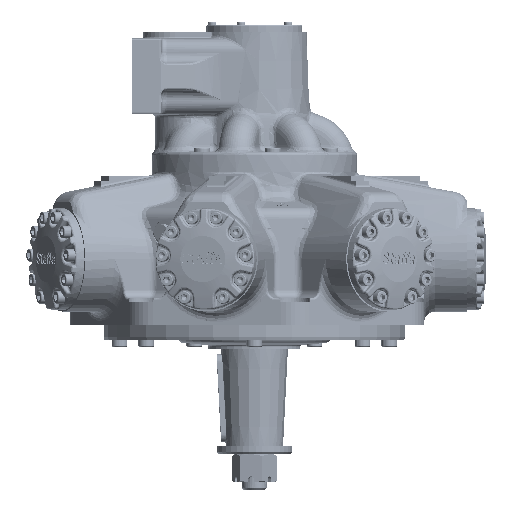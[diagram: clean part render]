
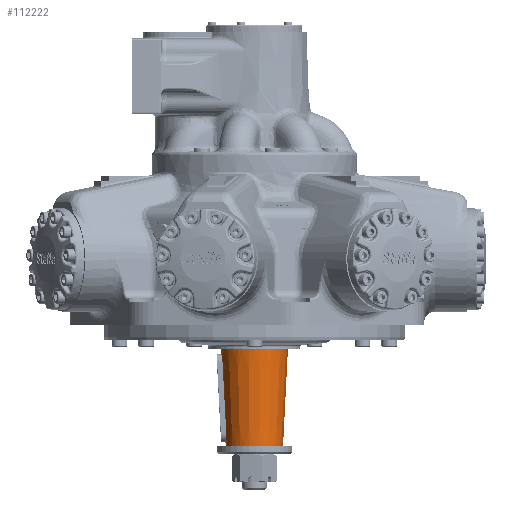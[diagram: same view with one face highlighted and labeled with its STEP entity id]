
A CAD part, left-side view. The second image highlights one B-rep face of the part: STEP entity #112222.
In plain terms, the highlighted conical face has half-angle 2.866 degrees and reference radius 47.125 mm.
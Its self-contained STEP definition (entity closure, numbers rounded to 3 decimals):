
#1358=CONICAL_SURFACE('',#119776,47.125,0.05);
#1745=(
BOUNDED_CURVE()
B_SPLINE_CURVE(2,(#233385,#233386,#233387),.UNSPECIFIED.,.F.,.F.)
B_SPLINE_CURVE_WITH_KNOTS((3,3),(0.042,10.796),
 .UNSPECIFIED.)
CURVE()
GEOMETRIC_REPRESENTATION_ITEM()
RATIONAL_B_SPLINE_CURVE((1.,1.002,1.))
REPRESENTATION_ITEM('')
);
#1746=(
BOUNDED_CURVE()
B_SPLINE_CURVE(2,(#233412,#233413,#233414),.UNSPECIFIED.,.F.,.F.)
B_SPLINE_CURVE_WITH_KNOTS((3,3),(0.045,10.799),
 .UNSPECIFIED.)
CURVE()
GEOMETRIC_REPRESENTATION_ITEM()
RATIONAL_B_SPLINE_CURVE((1.,1.002,1.))
REPRESENTATION_ITEM('')
);
#2413=FACE_BOUND('',#27956,.T.);
#7961=LINE('',#233373,#13619);
#13619=VECTOR('',#136174,47.125);
#20934=FACE_OUTER_BOUND('',#27955,.T.);
#27955=EDGE_LOOP('',(#85041,#85042,#85043,#85044));
#27956=EDGE_LOOP('',(#85045,#85046,#85047,#85048,#85049,#85050));
#33031=CIRCLE('',#119736,43.463);
#33041=CIRCLE('',#119750,50.787);
#38011=B_SPLINE_CURVE_WITH_KNOTS('',3,(#233322,#233323,#233324,#233325,
#233326,#233327,#233328,#233329,#233330,#233331,#233332,#233333,#233334,
#233335,#233336,#233337,#233338,#233339),.UNSPECIFIED.,.F.,.F.,(4,2,2,2,
2,2,2,2,4),(3.878,4.294,4.778,5.262,
5.747,6.231,6.715,7.199,7.615),
 .UNSPECIFIED.);
#38012=B_SPLINE_CURVE_WITH_KNOTS('',3,(#233375,#233376,#233377,#233378),
 .UNSPECIFIED.,.F.,.F.,(4,4),(0.016,0.111),
 .UNSPECIFIED.);
#38013=B_SPLINE_CURVE_WITH_KNOTS('',3,(#233380,#233381,#233382,#233383),
 .UNSPECIFIED.,.F.,.F.,(4,4),(3.771,3.865),
 .UNSPECIFIED.);
#38014=B_SPLINE_CURVE_WITH_KNOTS('',3,(#233389,#233390,#233391,#233392,
#233393,#233394,#233395,#233396,#233397,#233398,#233399,#233400,#233401,
#233402,#233403,#233404,#233405,#233406,#233407,#233408,#233409,#233410,
#233411),.UNSPECIFIED.,.F.,.F.,(4,2,2,2,2,2,2,2,2,3,4),(-3.837,
-3.818,-3.341,-2.863,-2.386,
-1.909,-1.432,-0.955,-0.477,
0.,0.018),.UNSPECIFIED.);
#46013=VERTEX_POINT('',#233249);
#46023=VERTEX_POINT('',#233275);
#46037=VERTEX_POINT('',#233319);
#46038=VERTEX_POINT('',#233321);
#46050=VERTEX_POINT('',#233374);
#46051=VERTEX_POINT('',#233379);
#46052=VERTEX_POINT('',#233384);
#46053=VERTEX_POINT('',#233388);
#59468=EDGE_CURVE('',#46013,#46013,#33031,.T.);
#59480=EDGE_CURVE('',#46023,#46023,#33041,.T.);
#59500=EDGE_CURVE('',#46038,#46037,#38011,.T.);
#59515=EDGE_CURVE('',#46013,#46023,#7961,.T.);
#59516=EDGE_CURVE('',#46050,#46038,#38012,.T.);
#59517=EDGE_CURVE('',#46037,#46051,#38013,.T.);
#59518=EDGE_CURVE('',#46051,#46052,#1745,.T.);
#59519=EDGE_CURVE('',#46052,#46053,#38014,.T.);
#59520=EDGE_CURVE('',#46053,#46050,#1746,.T.);
#85041=ORIENTED_EDGE('',*,*,#59468,.F.);
#85042=ORIENTED_EDGE('',*,*,#59515,.T.);
#85043=ORIENTED_EDGE('',*,*,#59480,.T.);
#85044=ORIENTED_EDGE('',*,*,#59515,.F.);
#85045=ORIENTED_EDGE('',*,*,#59516,.T.);
#85046=ORIENTED_EDGE('',*,*,#59500,.T.);
#85047=ORIENTED_EDGE('',*,*,#59517,.T.);
#85048=ORIENTED_EDGE('',*,*,#59518,.T.);
#85049=ORIENTED_EDGE('',*,*,#59519,.T.);
#85050=ORIENTED_EDGE('',*,*,#59520,.T.);
#112222=ADVANCED_FACE('',(#20934,#2413),#1358,.T.);
#119736=AXIS2_PLACEMENT_3D('',#233250,#136075,#136076);
#119750=AXIS2_PLACEMENT_3D('',#233276,#136105,#136106);
#119776=AXIS2_PLACEMENT_3D('',#233372,#136172,#136173);
#136075=DIRECTION('center_axis',(0.,0.,
-1.));
#136076=DIRECTION('ref_axis',(-1.,0.,0.));
#136105=DIRECTION('center_axis',(0.,0.,
-1.));
#136106=DIRECTION('ref_axis',(-1.,0.,0.));
#136172=DIRECTION('center_axis',(0.,0.,
1.));
#136173=DIRECTION('ref_axis',(0.,1.,0.));
#136174=DIRECTION('',(0.,-0.05,0.999));
#233249=CARTESIAN_POINT('',(0.,-43.463,-282.931));
#233250=CARTESIAN_POINT('Origin',(0.,0.,
-282.931));
#233275=CARTESIAN_POINT('',(0.,-50.787,-136.631));
#233276=CARTESIAN_POINT('Origin',(0.,0.,
-136.631));
#233319=CARTESIAN_POINT('',(-12.677,48.205,-155.465));
#233321=CARTESIAN_POINT('',(12.677,48.205,-155.465));
#233322=CARTESIAN_POINT('Ctrl Pts',(12.677,48.205,-155.465));
#233323=CARTESIAN_POINT('Ctrl Pts',(12.618,48.294,-154.06));
#233324=CARTESIAN_POINT('Ctrl Pts',(12.312,48.451,-152.606));
#233325=CARTESIAN_POINT('Ctrl Pts',(11.125,48.888,-149.686));
#233326=CARTESIAN_POINT('Ctrl Pts',(10.153,49.181,-148.258));
#233327=CARTESIAN_POINT('Ctrl Pts',(7.903,49.707,-146.004));
#233328=CARTESIAN_POINT('Ctrl Pts',(6.474,49.974,-145.026));
#233329=CARTESIAN_POINT('Ctrl Pts',(3.33,50.347,-143.727));
#233330=CARTESIAN_POINT('Ctrl Pts',(1.614,50.448,-143.405));
#233331=CARTESIAN_POINT('Ctrl Pts',(-1.614,50.448,-143.405));
#233332=CARTESIAN_POINT('Ctrl Pts',(-3.33,50.347,
-143.727));
#233333=CARTESIAN_POINT('Ctrl Pts',(-6.474,49.974,
-145.026));
#233334=CARTESIAN_POINT('Ctrl Pts',(-7.903,49.707,
-146.004));
#233335=CARTESIAN_POINT('Ctrl Pts',(-10.153,49.181,
-148.258));
#233336=CARTESIAN_POINT('Ctrl Pts',(-11.125,48.888,
-149.686));
#233337=CARTESIAN_POINT('Ctrl Pts',(-12.312,48.451,
-152.606));
#233338=CARTESIAN_POINT('Ctrl Pts',(-12.618,48.294,
-154.06));
#233339=CARTESIAN_POINT('Ctrl Pts',(-12.677,48.205,
-155.465));
#233372=CARTESIAN_POINT('Origin',(0.,0.,
-209.781));
#233373=CARTESIAN_POINT('',(0.,-47.125,-209.781));
#233374=CARTESIAN_POINT('',(12.713,48.146,-156.421));
#233375=CARTESIAN_POINT('Ctrl Pts',(12.713,48.146,-156.421));
#233376=CARTESIAN_POINT('Ctrl Pts',(12.713,48.163,-156.106));
#233377=CARTESIAN_POINT('Ctrl Pts',(12.701,48.182,-155.786));
#233378=CARTESIAN_POINT('Ctrl Pts',(12.677,48.205,-155.465));
#233379=CARTESIAN_POINT('',(-12.713,48.146,-156.421));
#233380=CARTESIAN_POINT('Ctrl Pts',(-12.677,48.205,
-155.465));
#233381=CARTESIAN_POINT('Ctrl Pts',(-12.701,48.182,
-155.786));
#233382=CARTESIAN_POINT('Ctrl Pts',(-12.713,48.163,
-156.106));
#233383=CARTESIAN_POINT('Ctrl Pts',(-12.713,48.146,
-156.421));
#233384=CARTESIAN_POINT('',(-12.713,42.562,-263.82));
#233385=CARTESIAN_POINT('Ctrl Pts',(-12.713,48.146,
-156.421));
#233386=CARTESIAN_POINT('Ctrl Pts',(-12.713,45.195,
-213.427));
#233387=CARTESIAN_POINT('Ctrl Pts',(-12.713,42.562,
-263.82));
#233388=CARTESIAN_POINT('',(12.713,42.562,-263.82));
#233389=CARTESIAN_POINT('Ctrl Pts',(-12.713,42.562,
-263.82));
#233390=CARTESIAN_POINT('Ctrl Pts',(-12.713,42.558,
-263.88));
#233391=CARTESIAN_POINT('Ctrl Pts',(-12.712,42.555,-263.941));
#233392=CARTESIAN_POINT('Ctrl Pts',(-12.689,42.476,
-265.591));
#233393=CARTESIAN_POINT('Ctrl Pts',(-12.347,42.494,
-267.281));
#233394=CARTESIAN_POINT('Ctrl Pts',(-11.025,42.696,-270.384));
#233395=CARTESIAN_POINT('Ctrl Pts',(-10.045,42.874,
-271.796));
#233396=CARTESIAN_POINT('Ctrl Pts',(-7.803,43.225,
-274.027));
#233397=CARTESIAN_POINT('Ctrl Pts',(-6.388,43.42,
-274.999));
#233398=CARTESIAN_POINT('Ctrl Pts',(-3.282,43.7,-276.292));
#233399=CARTESIAN_POINT('Ctrl Pts',(-1.59,43.779,
-276.614));
#233400=CARTESIAN_POINT('Ctrl Pts',(1.59,43.779,-276.614));
#233401=CARTESIAN_POINT('Ctrl Pts',(3.282,43.7,-276.292));
#233402=CARTESIAN_POINT('Ctrl Pts',(6.388,43.42,-274.999));
#233403=CARTESIAN_POINT('Ctrl Pts',(7.803,43.225,-274.027));
#233404=CARTESIAN_POINT('Ctrl Pts',(10.045,42.874,-271.796));
#233405=CARTESIAN_POINT('Ctrl Pts',(11.025,42.696,-270.384));
#233406=CARTESIAN_POINT('Ctrl Pts',(12.347,42.494,-267.281));
#233407=CARTESIAN_POINT('Ctrl Pts',(12.689,42.476,-265.591));
#233408=CARTESIAN_POINT('Ctrl Pts',(12.711,42.553,-264.001));
#233409=CARTESIAN_POINT('Ctrl Pts',(12.712,42.555,-263.941));
#233410=CARTESIAN_POINT('Ctrl Pts',(12.713,42.558,-263.88));
#233411=CARTESIAN_POINT('Ctrl Pts',(12.713,42.562,-263.82));
#233412=CARTESIAN_POINT('Ctrl Pts',(12.713,42.562,-263.82));
#233413=CARTESIAN_POINT('Ctrl Pts',(12.713,45.195,-213.427));
#233414=CARTESIAN_POINT('Ctrl Pts',(12.713,48.146,-156.421));
